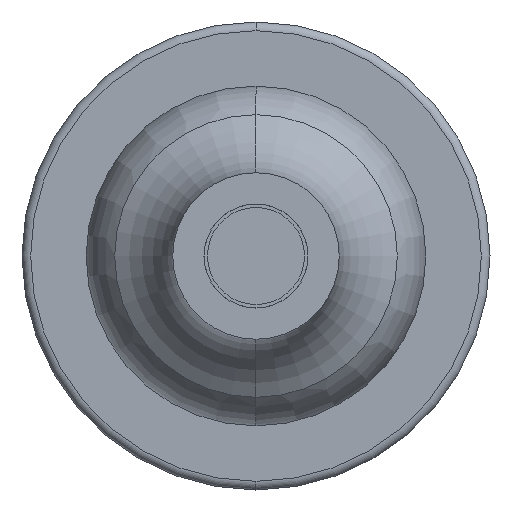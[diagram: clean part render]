
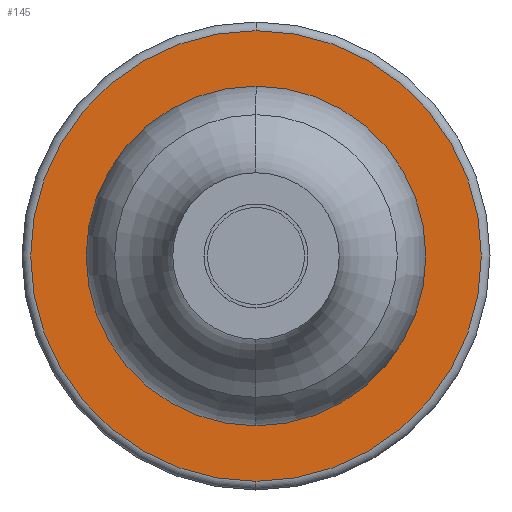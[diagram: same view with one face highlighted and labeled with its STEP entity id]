
A CAD part, left-side view. The second image highlights one B-rep face of the part: STEP entity #145.
In plain terms, the highlighted planar face has unit normal (-1, 0, 0).
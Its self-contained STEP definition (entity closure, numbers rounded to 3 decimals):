
#145 = ADVANCED_FACE( '', ( #334, #335 ), #336, .T. );
#334 = FACE_OUTER_BOUND( '', #582, .T. );
#335 = FACE_BOUND( '', #583, .T. );
#336 = PLANE( '', #584 );
#582 = EDGE_LOOP( '', ( #1238, #1239, #1240 ) );
#583 = EDGE_LOOP( '', ( #1241, #1242, #1243, #1244, #1245, #1246, #1247, #1248, #1249, #1250, #1251, #1252, #1253, #1254 ) );
#584 = AXIS2_PLACEMENT_3D( '', #1255, #1256, #1257 );
#1238 = ORIENTED_EDGE( '', *, *, #1721, .T. );
#1239 = ORIENTED_EDGE( '', *, *, #1868, .T. );
#1240 = ORIENTED_EDGE( '', *, *, #1722, .T. );
#1241 = ORIENTED_EDGE( '', *, *, #1869, .F. );
#1242 = ORIENTED_EDGE( '', *, *, #1838, .T. );
#1243 = ORIENTED_EDGE( '', *, *, #1777, .F. );
#1244 = ORIENTED_EDGE( '', *, *, #1870, .F. );
#1245 = ORIENTED_EDGE( '', *, *, #1844, .T. );
#1246 = ORIENTED_EDGE( '', *, *, #1871, .F. );
#1247 = ORIENTED_EDGE( '', *, *, #1858, .T. );
#1248 = ORIENTED_EDGE( '', *, *, #1872, .F. );
#1249 = ORIENTED_EDGE( '', *, *, #1853, .T. );
#1250 = ORIENTED_EDGE( '', *, *, #1873, .F. );
#1251 = ORIENTED_EDGE( '', *, *, #1775, .F. );
#1252 = ORIENTED_EDGE( '', *, *, #1849, .T. );
#1253 = ORIENTED_EDGE( '', *, *, #1874, .F. );
#1254 = ORIENTED_EDGE( '', *, *, #1833, .T. );
#1255 = CARTESIAN_POINT( '', ( -48., 10.625, 0. ) );
#1256 = DIRECTION( '', ( -1., 0., 0. ) );
#1257 = DIRECTION( '', ( 0., 1., 0. ) );
#1721 = EDGE_CURVE( '', #2090, #2088, #2091, .T. );
#1722 = EDGE_CURVE( '', #2082, #2090, #2092, .T. );
#1775 = EDGE_CURVE( '', #2185, #2181, #2187, .T. );
#1777 = EDGE_CURVE( '', #2188, #2191, #2192, .T. );
#1833 = EDGE_CURVE( '', #2281, #2287, #2289, .T. );
#1838 = EDGE_CURVE( '', #2291, #2191, #2296, .T. );
#1844 = EDGE_CURVE( '', #2298, #2304, #2306, .T. );
#1849 = EDGE_CURVE( '', #2185, #2310, #2313, .T. );
#1853 = EDGE_CURVE( '', #2319, #2316, #2320, .T. );
#1858 = EDGE_CURVE( '', #2328, #2325, #2329, .T. );
#1868 = EDGE_CURVE( '', #2088, #2082, #2340, .T. );
#1869 = EDGE_CURVE( '', #2291, #2287, #2341, .T. );
#1870 = EDGE_CURVE( '', #2298, #2188, #2342, .T. );
#1871 = EDGE_CURVE( '', #2328, #2304, #2343, .T. );
#1872 = EDGE_CURVE( '', #2319, #2325, #2344, .T. );
#1873 = EDGE_CURVE( '', #2181, #2316, #2345, .T. );
#1874 = EDGE_CURVE( '', #2281, #2310, #2346, .T. );
#2082 = VERTEX_POINT( '', #2576 );
#2088 = VERTEX_POINT( '', #2582 );
#2090 = VERTEX_POINT( '', #2584 );
#2091 = CIRCLE( '', #2585, 13. );
#2092 = CIRCLE( '', #2586, 13. );
#2181 = VERTEX_POINT( '', #2689 );
#2185 = VERTEX_POINT( '', #2694 );
#2187 = CIRCLE( '', #2697, 8.25 );
#2188 = VERTEX_POINT( '', #2698 );
#2191 = VERTEX_POINT( '', #2702 );
#2192 = CIRCLE( '', #2703, 8.25 );
#2281 = VERTEX_POINT( '', #2829 );
#2287 = VERTEX_POINT( '', #2839 );
#2289 = LINE( '', #2842, #2843 );
#2291 = VERTEX_POINT( '', #2845 );
#2296 = LINE( '', #2854, #2855 );
#2298 = VERTEX_POINT( '', #2857 );
#2304 = VERTEX_POINT( '', #2867 );
#2306 = LINE( '', #2870, #2871 );
#2310 = VERTEX_POINT( '', #2878 );
#2313 = LINE( '', #2882, #2883 );
#2316 = VERTEX_POINT( '', #2888 );
#2319 = VERTEX_POINT( '', #2892 );
#2320 = LINE( '', #2893, #2894 );
#2325 = VERTEX_POINT( '', #2902 );
#2328 = VERTEX_POINT( '', #2906 );
#2329 = LINE( '', #2907, #2908 );
#2340 = CIRCLE( '', #2922, 13. );
#2341 = CIRCLE( '', #2923, 8.25 );
#2342 = CIRCLE( '', #2924, 8.25 );
#2343 = CIRCLE( '', #2925, 8.25 );
#2344 = CIRCLE( '', #2926, 8.25 );
#2345 = CIRCLE( '', #2927, 8.25 );
#2346 = CIRCLE( '', #2928, 8.25 );
#2576 = CARTESIAN_POINT( '', ( -48., 0., 13. ) );
#2582 = CARTESIAN_POINT( '', ( -48., 0., -13. ) );
#2584 = CARTESIAN_POINT( '', ( -48., 13., 0. ) );
#2585 = AXIS2_PLACEMENT_3D( '', #3224, #3225, #3226 );
#2586 = AXIS2_PLACEMENT_3D( '', #3227, #3228, #3229 );
#2689 = CARTESIAN_POINT( '', ( -48., -8.25, 0. ) );
#2694 = CARTESIAN_POINT( '', ( -48., -8.214, -0.774 ) );
#2697 = AXIS2_PLACEMENT_3D( '', #3354, #3355, #3356 );
#2698 = CARTESIAN_POINT( '', ( -48., 8.25, 0. ) );
#2702 = CARTESIAN_POINT( '', ( -48., 8.214, -0.774 ) );
#2703 = AXIS2_PLACEMENT_3D( '', #3358, #3359, #3360 );
#2829 = CARTESIAN_POINT( '', ( -48., -3.437, -7.5 ) );
#2839 = CARTESIAN_POINT( '', ( -48., 3.437, -7.5 ) );
#2842 = CARTESIAN_POINT( '', ( -48., -4.33, -7.5 ) );
#2843 = VECTOR( '', #3442, 1. );
#2845 = CARTESIAN_POINT( '', ( -48., 4.777, -6.726 ) );
#2854 = CARTESIAN_POINT( '', ( -48., 4.33, -7.5 ) );
#2855 = VECTOR( '', #3447, 1. );
#2857 = CARTESIAN_POINT( '', ( -48., 8.214, 0.774 ) );
#2867 = CARTESIAN_POINT( '', ( -48., 4.777, 6.726 ) );
#2870 = CARTESIAN_POINT( '', ( -48., 8.66, 0. ) );
#2871 = VECTOR( '', #3453, 1. );
#2878 = CARTESIAN_POINT( '', ( -48., -4.777, -6.726 ) );
#2882 = CARTESIAN_POINT( '', ( -48., -8.66, 0. ) );
#2883 = VECTOR( '', #3458, 1. );
#2888 = CARTESIAN_POINT( '', ( -48., -8.214, 0.774 ) );
#2892 = CARTESIAN_POINT( '', ( -48., -4.777, 6.726 ) );
#2893 = CARTESIAN_POINT( '', ( -48., -4.33, 7.5 ) );
#2894 = VECTOR( '', #3462, 1. );
#2902 = CARTESIAN_POINT( '', ( -48., -3.437, 7.5 ) );
#2906 = CARTESIAN_POINT( '', ( -48., 3.437, 7.5 ) );
#2907 = CARTESIAN_POINT( '', ( -48., 4.33, 7.5 ) );
#2908 = VECTOR( '', #3467, 1. );
#2922 = AXIS2_PLACEMENT_3D( '', #3489, #3490, #3491 );
#2923 = AXIS2_PLACEMENT_3D( '', #3492, #3493, #3494 );
#2924 = AXIS2_PLACEMENT_3D( '', #3495, #3496, #3497 );
#2925 = AXIS2_PLACEMENT_3D( '', #3498, #3499, #3500 );
#2926 = AXIS2_PLACEMENT_3D( '', #3501, #3502, #3503 );
#2927 = AXIS2_PLACEMENT_3D( '', #3504, #3505, #3506 );
#2928 = AXIS2_PLACEMENT_3D( '', #3507, #3508, #3509 );
#3224 = CARTESIAN_POINT( '', ( -48., 0., 0. ) );
#3225 = DIRECTION( '', ( -1., 0., 0. ) );
#3226 = DIRECTION( '', ( 0., 1., 0. ) );
#3227 = CARTESIAN_POINT( '', ( -48., 0., 0. ) );
#3228 = DIRECTION( '', ( -1., 0., 0. ) );
#3229 = DIRECTION( '', ( 0., 1., 0. ) );
#3354 = CARTESIAN_POINT( '', ( -48., 0., 0. ) );
#3355 = DIRECTION( '', ( -1., 0., 0. ) );
#3356 = DIRECTION( '', ( 0., 1., 0. ) );
#3358 = CARTESIAN_POINT( '', ( -48., 0., 0. ) );
#3359 = DIRECTION( '', ( -1., 0., 0. ) );
#3360 = DIRECTION( '', ( 0., 1., 0. ) );
#3442 = DIRECTION( '', ( 0., 1., 0. ) );
#3447 = DIRECTION( '', ( 0., 0.5, 0.866 ) );
#3453 = DIRECTION( '', ( 0., -0.5, 0.866 ) );
#3458 = DIRECTION( '', ( 0., 0.5, -0.866 ) );
#3462 = DIRECTION( '', ( 0., -0.5, -0.866 ) );
#3467 = DIRECTION( '', ( 0., -1., 0. ) );
#3489 = CARTESIAN_POINT( '', ( -48., 0., 0. ) );
#3490 = DIRECTION( '', ( -1., 0., 0. ) );
#3491 = DIRECTION( '', ( 0., 1., 0. ) );
#3492 = CARTESIAN_POINT( '', ( -48., 0., 0. ) );
#3493 = DIRECTION( '', ( -1., 0., 0. ) );
#3494 = DIRECTION( '', ( 0., 1., 0. ) );
#3495 = CARTESIAN_POINT( '', ( -48., 0., 0. ) );
#3496 = DIRECTION( '', ( -1., 0., 0. ) );
#3497 = DIRECTION( '', ( 0., 1., 0. ) );
#3498 = CARTESIAN_POINT( '', ( -48., 0., 0. ) );
#3499 = DIRECTION( '', ( -1., 0., 0. ) );
#3500 = DIRECTION( '', ( 0., 1., 0. ) );
#3501 = CARTESIAN_POINT( '', ( -48., 0., 0. ) );
#3502 = DIRECTION( '', ( -1., 0., 0. ) );
#3503 = DIRECTION( '', ( 0., 1., 0. ) );
#3504 = CARTESIAN_POINT( '', ( -48., 0., 0. ) );
#3505 = DIRECTION( '', ( -1., 0., 0. ) );
#3506 = DIRECTION( '', ( 0., 1., 0. ) );
#3507 = CARTESIAN_POINT( '', ( -48., 0., 0. ) );
#3508 = DIRECTION( '', ( -1., 0., 0. ) );
#3509 = DIRECTION( '', ( 0., 1., 0. ) );
